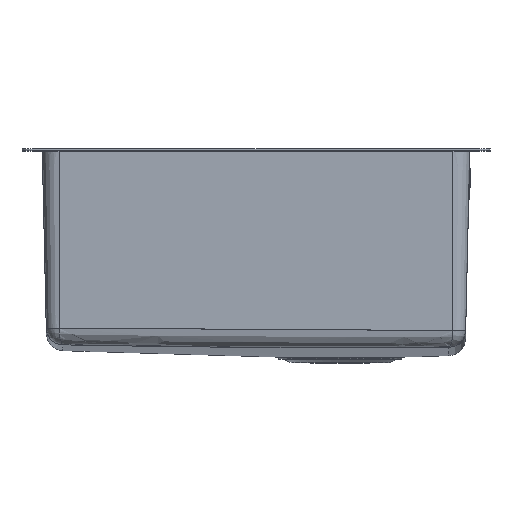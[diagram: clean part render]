
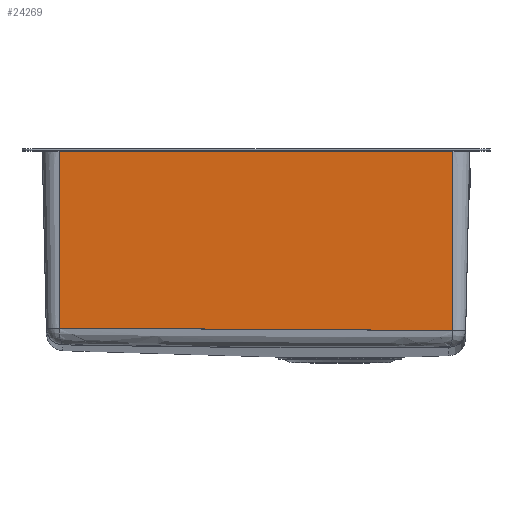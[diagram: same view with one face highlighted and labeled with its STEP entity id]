
A CAD part, top view. The second image highlights one B-rep face of the part: STEP entity #24269.
In plain terms, the highlighted planar face has unit normal (0, -0.023, 1).
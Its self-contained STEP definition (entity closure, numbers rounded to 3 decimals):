
#123 =( BOUNDED_CURVE ( )  B_SPLINE_CURVE ( 3, ( #26650, #21738, #24362, #17709, #19873, #29126, #1280, #6048 ),
 .UNSPECIFIED., .F., .T. ) 
 B_SPLINE_CURVE_WITH_KNOTS ( ( 4, 2, 2, 4 ),
 ( 0., 0.247, 0.5, 1. ),
 .UNSPECIFIED. ) 
 CURVE ( )  GEOMETRIC_REPRESENTATION_ITEM ( )  RATIONAL_B_SPLINE_CURVE ( ( 1., 1., 1., 1., 1., 1., 1., 1. ) ) 
 REPRESENTATION_ITEM ( '' )  );
#1280 = CARTESIAN_POINT ( 'NONE',  ( -123.338, -169.536, 352.153 ) ) ;
#1410 = CARTESIAN_POINT ( 'NONE',  ( -185., 0., 356. ) ) ;
#4455 = DIRECTION ( 'NONE',  ( -0.003, 1., 0.023 ) ) ;
#4611 = LINE ( 'NONE', #9675, #10313 ) ;
#5288 = ORIENTED_EDGE ( 'NONE', *, *, #22260, .F. ) ;
#5478 = VERTEX_POINT ( 'NONE', #17461 ) ;
#5890 = DIRECTION ( 'NONE',  ( 0., 1., 0.023 ) ) ;
#6048 = CARTESIAN_POINT ( 'NONE',  ( -185., -168.404, 352.178 ) ) ;
#7375 = CARTESIAN_POINT ( 'NONE',  ( 184.999, -170.632, 352.128 ) ) ;
#7615 = ORIENTED_EDGE ( 'NONE', *, *, #22804, .F. ) ;
#7775 = EDGE_CURVE ( 'NONE', #5478, #20489, #25813, .T. ) ;
#7966 = EDGE_CURVE ( 'NONE', #8108, #26551, #4611, .T. ) ;
#8108 = VERTEX_POINT ( 'NONE', #18721 ) ;
#8626 = VERTEX_POINT ( 'NONE', #7375 ) ;
#8966 = LINE ( 'NONE', #27257, #13371 ) ;
#9675 = CARTESIAN_POINT ( 'NONE',  ( -185., -168.384, 352.179 ) ) ;
#10109 = ORIENTED_EDGE ( 'NONE', *, *, #7775, .T. ) ;
#10313 = VECTOR ( 'NONE', #4455, 1000. ) ;
#10456 = CARTESIAN_POINT ( 'NONE',  ( -185., -1.977, 355.955 ) ) ;
#10803 = DIRECTION ( 'NONE',  ( 0., -0.023, 1. ) ) ;
#10863 = VECTOR ( 'NONE', #27470, 1000. ) ;
#11012 = ORIENTED_EDGE ( 'NONE', *, *, #22268, .F. ) ;
#11327 = CARTESIAN_POINT ( 'NONE',  ( 185., 0., 356. ) ) ;
#11380 = CARTESIAN_POINT ( 'NONE',  ( -185., -1.977, 355.955 ) ) ;
#13371 = VECTOR ( 'NONE', #22807, 1000. ) ;
#13992 = ORIENTED_EDGE ( 'NONE', *, *, #7966, .F. ) ;
#14381 = CARTESIAN_POINT ( 'NONE',  ( 185., -170.556, 352.13 ) ) ;
#16529 = EDGE_CURVE ( 'NONE', #5478, #25890, #20086, .T. ) ;
#16808 = ORIENTED_EDGE ( 'NONE', *, *, #16529, .F. ) ;
#17461 = CARTESIAN_POINT ( 'NONE',  ( 185., -1.977, 355.955 ) ) ;
#17560 = CARTESIAN_POINT ( 'NONE',  ( -185., 0., 356. ) ) ;
#17709 = CARTESIAN_POINT ( 'NONE',  ( 62.399, -171.147, 352.116 ) ) ;
#17906 = EDGE_LOOP ( 'NONE', ( #11012, #7615, #16808, #10109, #5288, #13992 ) ) ;
#18721 = CARTESIAN_POINT ( 'NONE',  ( -185., -168.404, 352.178 ) ) ;
#19873 = CARTESIAN_POINT ( 'NONE',  ( 31.195, -171.056, 352.118 ) ) ;
#20086 = LINE ( 'NONE', #11327, #10863 ) ;
#20132 = VECTOR ( 'NONE', #25513, 1000. ) ;
#20489 = VERTEX_POINT ( 'NONE', #10456 ) ;
#21738 = CARTESIAN_POINT ( 'NONE',  ( 154.533, -170.904, 352.122 ) ) ;
#22260 = EDGE_CURVE ( 'NONE', #26551, #20489, #24819, .T. ) ;
#22268 = EDGE_CURVE ( 'NONE', #8626, #8108, #123, .T. ) ;
#22490 = PLANE ( 'NONE',  #26103 ) ;
#22804 = EDGE_CURVE ( 'NONE', #25890, #8626, #8966, .T. ) ;
#22807 = DIRECTION ( 'NONE',  ( -0.01, -1., -0.023 ) ) ;
#23835 = CARTESIAN_POINT ( 'NONE',  ( -185., -168.384, 352.179 ) ) ;
#24269 = ADVANCED_FACE ( 'NONE', ( #27090 ), #22490, .T. ) ;
#24362 = CARTESIAN_POINT ( 'NONE',  ( 124.068, -171.068, 352.118 ) ) ;
#24819 = LINE ( 'NONE', #17560, #27580 ) ;
#24944 = DIRECTION ( 'NONE',  ( 0., -1., -0.023 ) ) ;
#25513 = DIRECTION ( 'NONE',  ( -1., 0., 0. ) ) ;
#25813 = LINE ( 'NONE', #11380, #20132 ) ;
#25890 = VERTEX_POINT ( 'NONE', #14381 ) ;
#26103 = AXIS2_PLACEMENT_3D ( 'NONE', #1410, #10803, #24944 ) ;
#26551 = VERTEX_POINT ( 'NONE', #23835 ) ;
#26650 = CARTESIAN_POINT ( 'NONE',  ( 184.999, -170.632, 352.128 ) ) ;
#27090 = FACE_OUTER_BOUND ( 'NONE', #17906, .T. ) ;
#27257 = CARTESIAN_POINT ( 'NONE',  ( 184.999, -170.632, 352.128 ) ) ;
#27470 = DIRECTION ( 'NONE',  ( 0., -1., -0.023 ) ) ;
#27580 = VECTOR ( 'NONE', #5890, 1000. ) ;
#29126 = CARTESIAN_POINT ( 'NONE',  ( -61.675, -170.424, 352.133 ) ) ;
